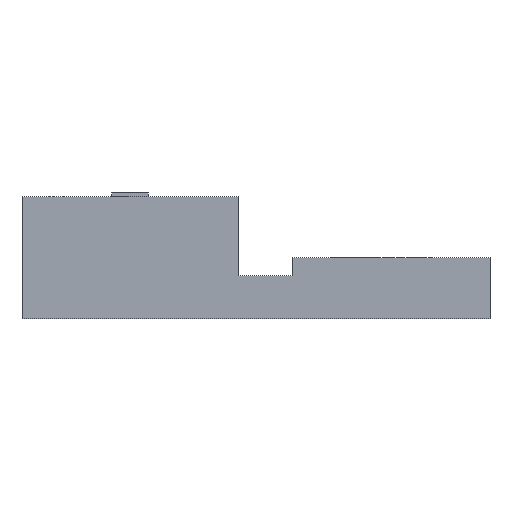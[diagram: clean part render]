
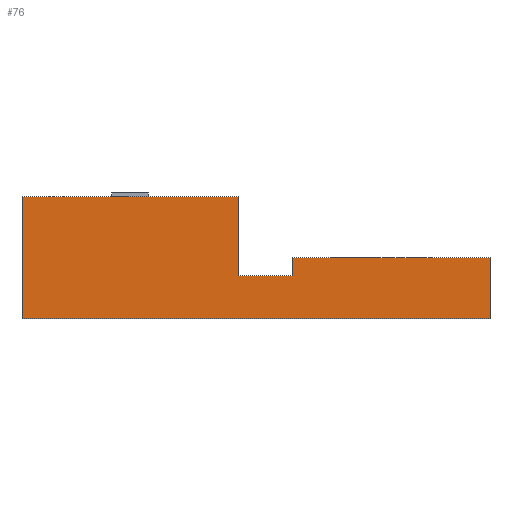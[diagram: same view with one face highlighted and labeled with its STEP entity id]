
A CAD part, left-side view. The second image highlights one B-rep face of the part: STEP entity #76.
In plain terms, the highlighted planar face has unit normal (-1, 0, 0).
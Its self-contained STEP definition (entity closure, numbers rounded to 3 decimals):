
#76=ADVANCED_FACE('',(#279),#281,.T.);
#279=FACE_BOUND('',#280,.T.);
#280=EDGE_LOOP('',(#454,#455,#456,#457,#458,#459,#460,#461,#462,#463));
#281=PLANE('',#282);
#282=AXIS2_PLACEMENT_3D('',#283,#284,#285);
#283=CARTESIAN_POINT('',(-3.,6.5,0.));
#284=DIRECTION('',(-1.,0.,0.));
#285=DIRECTION('',(0.,-1.,0.));
#454=ORIENTED_EDGE('',*,*,#568,.F.);
#455=ORIENTED_EDGE('',*,*,#553,.F.);
#456=ORIENTED_EDGE('',*,*,#569,.F.);
#457=ORIENTED_EDGE('',*,*,#570,.T.);
#458=ORIENTED_EDGE('',*,*,#571,.T.);
#459=ORIENTED_EDGE('',*,*,#572,.F.);
#460=ORIENTED_EDGE('',*,*,#573,.T.);
#461=ORIENTED_EDGE('',*,*,#574,.T.);
#462=ORIENTED_EDGE('',*,*,#575,.T.);
#463=ORIENTED_EDGE('',*,*,#557,.F.);
#553=EDGE_CURVE('',#615,#617,#618,.T.);
#557=EDGE_CURVE('',#623,#625,#626,.T.);
#568=EDGE_CURVE('',#617,#623,#644,.F.);
#569=EDGE_CURVE('',#645,#615,#646,.T.);
#570=EDGE_CURVE('',#645,#647,#648,.T.);
#571=EDGE_CURVE('',#647,#649,#650,.T.);
#572=EDGE_CURVE('',#651,#649,#652,.T.);
#573=EDGE_CURVE('',#651,#653,#654,.F.);
#574=EDGE_CURVE('',#653,#655,#656,.F.);
#575=EDGE_CURVE('',#655,#625,#657,.T.);
#615=VERTEX_POINT('',#719);
#617=VERTEX_POINT('',#723);
#618=LINE('',#724,#725);
#623=VERTEX_POINT('',#735);
#625=VERTEX_POINT('',#739);
#626=LINE('',#740,#741);
#644=LINE('',#780,#781);
#645=VERTEX_POINT('',#783);
#646=LINE('',#784,#785);
#647=VERTEX_POINT('',#787);
#648=LINE('',#788,#789);
#649=VERTEX_POINT('',#791);
#650=LINE('',#792,#793);
#651=VERTEX_POINT('',#795);
#652=LINE('',#796,#797);
#653=VERTEX_POINT('',#799);
#654=LINE('',#800,#801);
#655=VERTEX_POINT('',#803);
#656=LINE('',#804,#805);
#657=LINE('',#807,#808);
#719=CARTESIAN_POINT('',(-3.,6.5,3.4));
#723=CARTESIAN_POINT('',(-3.,4.,3.4));
#724=CARTESIAN_POINT('',(-3.,6.5,3.4));
#725=VECTOR('',#726,1.);
#726=DIRECTION('',(0.,-1.,0.));
#735=CARTESIAN_POINT('',(-3.,3.,3.4));
#739=CARTESIAN_POINT('',(-3.,0.5,3.4));
#740=CARTESIAN_POINT('',(-3.,3.,3.4));
#741=VECTOR('',#742,1.);
#742=DIRECTION('',(0.,-1.,0.));
#780=CARTESIAN_POINT('',(-3.,3.,3.4));
#781=VECTOR('',#782,1.);
#782=DIRECTION('',(0.,1.,0.));
#783=CARTESIAN_POINT('',(-3.,6.5,0.));
#784=CARTESIAN_POINT('',(-3.,6.5,0.));
#785=VECTOR('',#786,1.);
#786=DIRECTION('',(0.,0.,1.));
#787=CARTESIAN_POINT('',(-3.,-6.5,0.));
#788=CARTESIAN_POINT('',(-3.,6.5,0.));
#789=VECTOR('',#790,1.);
#790=DIRECTION('',(0.,-1.,0.));
#791=CARTESIAN_POINT('',(-3.,-6.5,1.7));
#792=CARTESIAN_POINT('',(-3.,-6.5,0.));
#793=VECTOR('',#794,1.);
#794=DIRECTION('',(0.,0.,1.));
#795=CARTESIAN_POINT('',(-3.,-1.,1.7));
#796=CARTESIAN_POINT('',(-3.,-1.,1.7));
#797=VECTOR('',#798,1.);
#798=DIRECTION('',(0.,-1.,0.));
#799=CARTESIAN_POINT('',(-3.,-1.,1.2));
#800=CARTESIAN_POINT('',(-3.,-1.,1.2));
#801=VECTOR('',#802,1.);
#802=DIRECTION('',(0.,0.,1.));
#803=CARTESIAN_POINT('',(-3.,0.5,1.2));
#804=CARTESIAN_POINT('',(-3.,0.5,1.2));
#805=VECTOR('',#806,1.);
#806=DIRECTION('',(0.,-1.,0.));
#807=CARTESIAN_POINT('',(-3.,0.5,1.2));
#808=VECTOR('',#809,1.);
#809=DIRECTION('',(0.,0.,1.));
